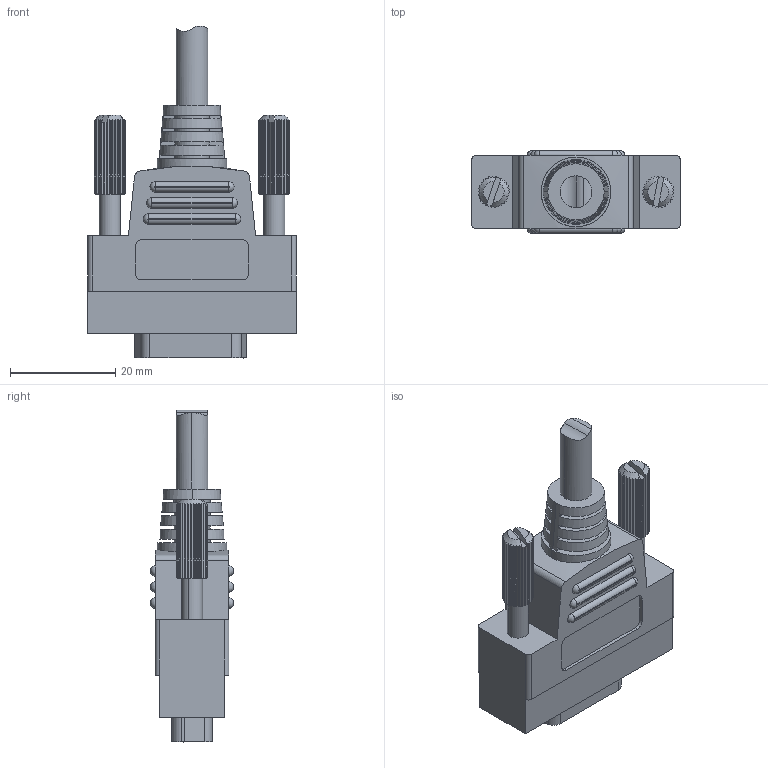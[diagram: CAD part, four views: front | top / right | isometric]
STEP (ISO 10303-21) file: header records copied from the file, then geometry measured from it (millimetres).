
FILE_DESCRIPTION (( 'STEP AP214' ), '1' );
FILE_NAME ('MVC-1.STEP', '2023-06-23T07:45:10', ( '' ), ( '' ), 'SwSTEP 2.0', 'SolidWorks 2021', '' );
FILE_SCHEMA (( 'AUTOMOTIVE_DESIGN' ));
Length unit declared in the file: millimetre
Products named in the file (5): MVC-1 Thumbscrew; MVC-1 Mold; 10126-6000EC; MI_Cable_NaN; MVC-1
Assembly tree (5 placements, depth 2):
  MVC-1
    10126-6000EC
    MVC-1 Mold
    MVC-1 Thumbscrew  x2
    MI_Cable_NaN
Bounding box: 39.52 x 15.75 x 63.01 mm (x, y, z)
Volume: 13970.4 mm3; surface area: 9947.4 mm2
Topology: 5 solids, 5 shells, 702 faces, 1959 edges, 1300 vertices
Faces by surface type: plane 405, cylinder 231, bspline 38, cone 16, torus 12
Entity records: 21857 total; most frequent: CARTESIAN_POINT 6105, ORIENTED_EDGE 3008, DIRECTION 2365, EDGE_CURVE 1504, VERTEX_POINT 998, VECTOR 945, LINE 945, AXIS2_PLACEMENT_3D 710
